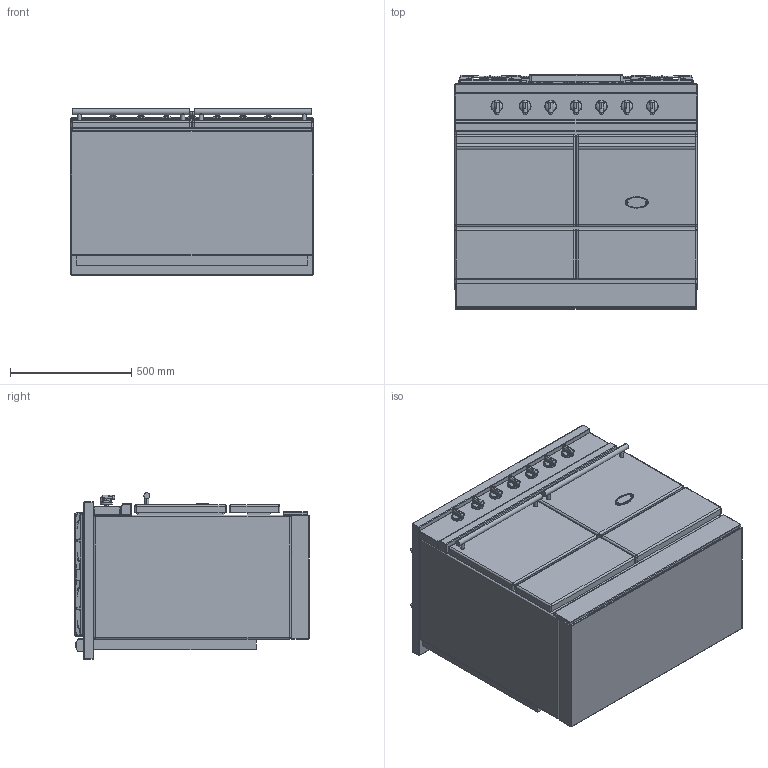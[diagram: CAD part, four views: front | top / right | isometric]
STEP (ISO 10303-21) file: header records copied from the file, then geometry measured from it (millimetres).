
FILE_DESCRIPTION((''),'2;1');
FILE_NAME('LMCF1052_ASM','2022-04-13T11:32:54',('stagiaire'),(''),'CREO PARAMETRIC BY PTC INC, 2021424','CREO PARAMETRIC BY PTC INC, 2021424','');
FILE_SCHEMA(('AP203_CONFIGURATION_CONTROLLED_3D_DESIGN_OF_MECHANICAL_PARTS_AND_ASSEMBLIES_MIM_LF { 1 0 10303 403 2 1 2 }'));
Products named in the file (21): BASE_EXPORT_CLUNY_MODERN; 65064012; 19150009; 88064012_ASM; 65049009; 65650001; BASE_EXPORT_CLUNY_MODERN_ASM; TABLE_1000_CLASSIQUE; 3KW; 5KW; 1_5KW; 4KW; 65062008; 65062012; 65149005; 90000549_ASM; 6537024; 90000487_ASM; CHEMINEE_2020_LG371_EXPORT_STEP; TABLE_1000_TRADITION_ASM; LMCF1052_ASM
Assembly tree (36 placements, depth 4):
  LMCF1052_ASM
    BASE_EXPORT_CLUNY_MODERN_ASM
      BASE_EXPORT_CLUNY_MODERN
      88064012_ASM  x7
        65064012
        19150009
      65049009
      65650001
    TABLE_1000_TRADITION_ASM
      TABLE_1000_CLASSIQUE
      3KW  x2
      5KW
      1_5KW
      4KW
      90000549_ASM
        65062008
        65062012
        65149005  x4
      90000487_ASM  x2
        6537024
        65149005
      CHEMINEE_2020_LG371_EXPORT_STEP  x2
Bounding box: 1000 x 967 x 688.5 mm (x, y, z)
Volume: 532194966 mm3; surface area: 9053152.4 mm2
Topology: 45 solids, 45 shells, 6766 faces, 18265 edges, 11597 vertices
Faces by surface type: plane 2834, cylinder 1903, bspline 1153, sphere 382, cone 263, torus 189, extrusion 42
Entity records: 194183 total; most frequent: CARTESIAN_POINT 56070, ORIENTED_EDGE 22088, DIRECTION 20236, EDGE_CURVE 11044, PRESENTATION_STYLE_ASSIGNMENT 8850, STYLED_ITEM 8850, CURVE_STYLE 8701, VECTOR 7662
